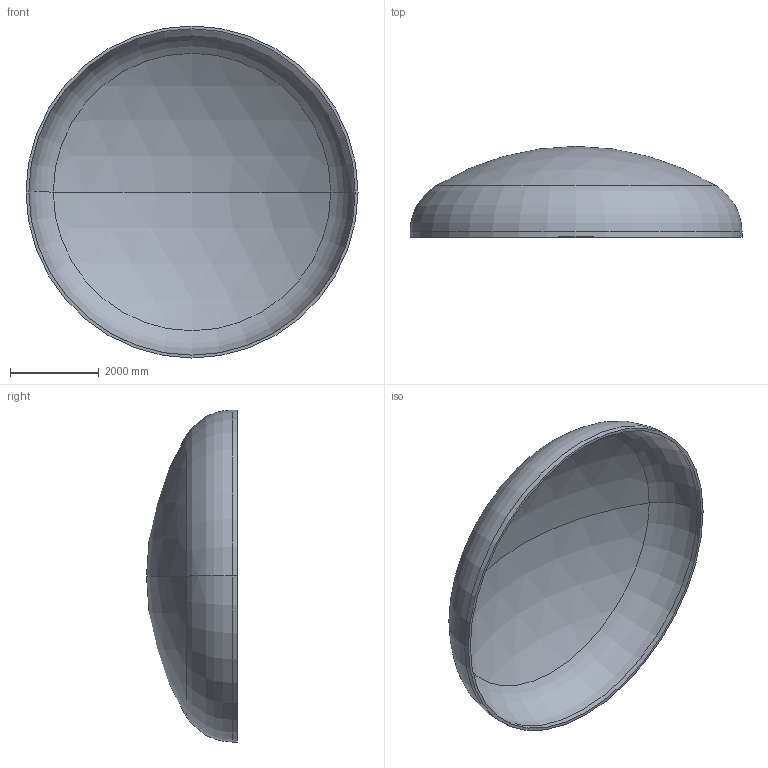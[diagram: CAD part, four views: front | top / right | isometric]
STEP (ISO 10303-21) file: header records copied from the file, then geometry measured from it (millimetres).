
FILE_DESCRIPTION (( 'STEP AP203' ), '1' );
FILE_NAME ('DIN 28013 Korbbogenform_-_Boden DIN 28013 - 7500 x 120 - I - s=64.step', '2016-07-04T10:55:17', ( '' ), ( '' ), 'SwSTEP 2.0', 'SolidWorks 2013', '' );
FILE_SCHEMA (( 'CONFIG_CONTROL_DESIGN' ));
Length unit declared in the file: millimetre
Products named in the file (1): DIN 28013 Korbbogenform_-_Boden DIN 28013 - 7500 x 120 - I - s=64
Bounding box: 7500 x 2052.65 x 7500 mm (x, y, z)
Volume: 4051439151.1 mm3; surface area: 128111099.4 mm2
Topology: 1 solids, 1 shells, 13 faces, 24 edges, 14 vertices
Faces by surface type: torus 4, cylinder 4, sphere 4, plane 1
Entity records: 407 total; most frequent: DIRECTION 72, CARTESIAN_POINT 52, ORIENTED_EDGE 48, AXIS2_PLACEMENT_3D 34, EDGE_CURVE 24, CIRCLE 20, EDGE_LOOP 14, VERTEX_POINT 14
